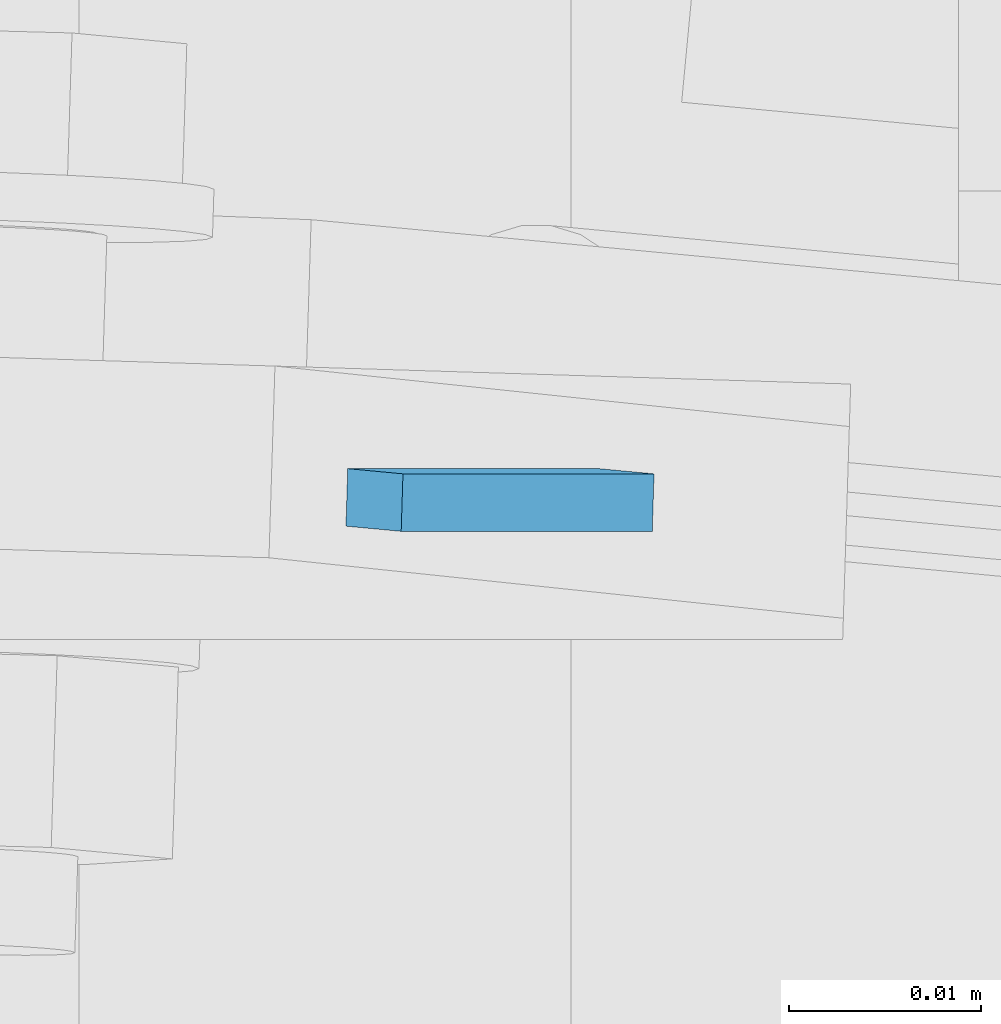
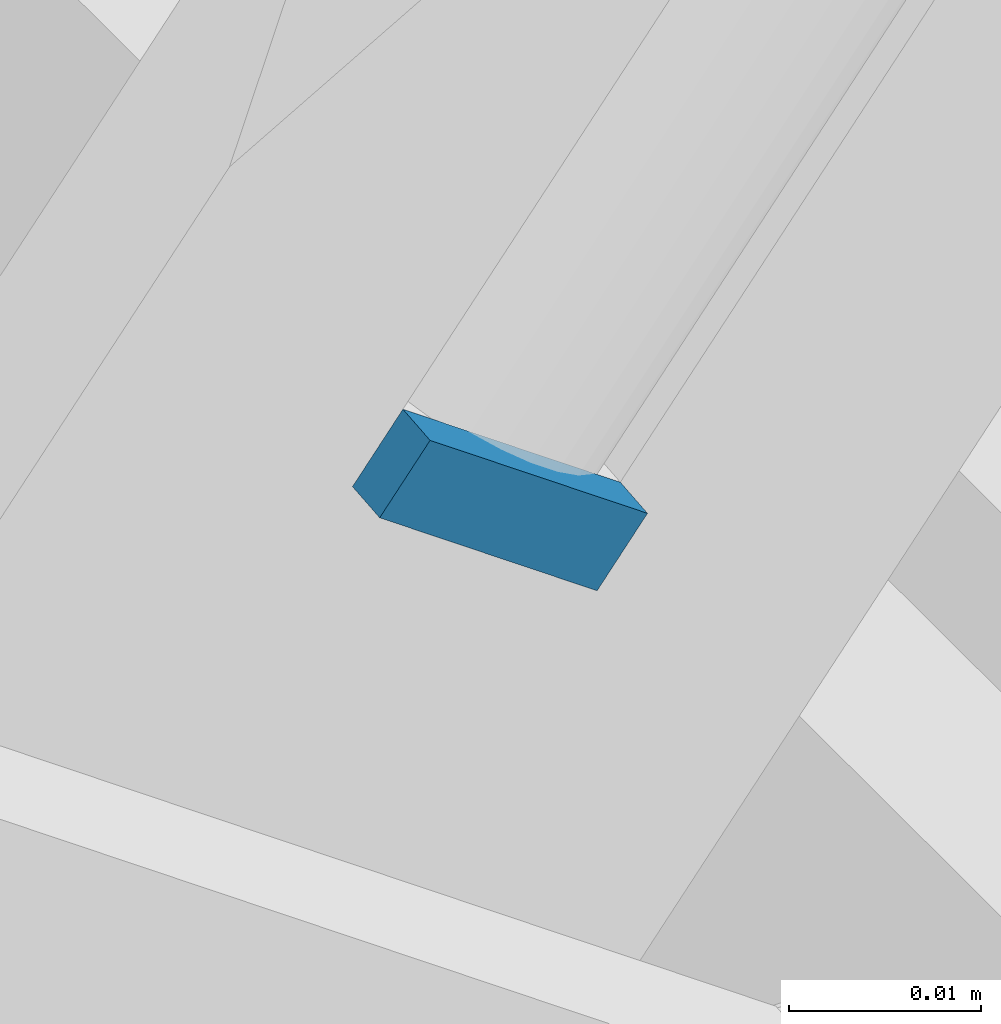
# One storey, part 206 of 271: 1 plate, 1 element without a shape of its own.
"""IFC2X3 building model written with IfcOpenShell, lengths in millimetres."""

from ifc_helpers import new_model, si_unit, frame, origin_with_axes, place, context, subcontext, project, spatial, polyline, outline, extrude, material, type_object, element, aggregate, save


model = new_model("IFC2X3")

# Units and contexts
model_context = context("Model", 3, precision=1e-05, world=origin_with_axes())
body_context = subcontext(model_context, "Body", "Model", "MODEL_VIEW")
ifc_project = project(units=[si_unit("LENGTHUNIT", "METRE", prefix="MILLI"), si_unit("AREAUNIT", "SQUARE_METRE"), si_unit("VOLUMEUNIT", "CUBIC_METRE"), si_unit("MASSUNIT", "GRAM", prefix="KILO"), si_unit("TIMEUNIT", "SECOND"), si_unit("PLANEANGLEUNIT", "RADIAN"), si_unit("SOLIDANGLEUNIT", "STERADIAN"), si_unit("THERMODYNAMICTEMPERATUREUNIT", "DEGREE_CELSIUS"), si_unit("LUMINOUSINTENSITYUNIT", "LUMEN")], contexts=[model_context])

# Site, building, storey
site_placement = place(None, origin_with_axes())
site = spatial("IfcSite", under=ifc_project, at=site_placement, Name="Undefined", CompositionType="ELEMENT")
building_placement = place(site_placement, origin_with_axes())
building = spatial("IfcBuilding", under=site, at=building_placement, Name="Undefined", CompositionType="ELEMENT")
storey_placement = place(building_placement, origin_with_axes())
storey = spatial("IfcBuildingStorey", under=building, at=storey_placement, Name="Undefined", CompositionType="ELEMENT", Elevation=0.0)

# Assembly, plate
assembly_placement = place(storey_placement, origin_with_axes())
assembly = element("IfcElementAssembly", 1, at=assembly_placement, inside=storey, AssemblyPlace="NOTDEFINED", PredefinedType="RIGID_FRAME")
ifc_material = material(Name="STEEL/S355JR")
plate_type = type_object("IfcPlateType", Name="BL5*3", PredefinedType="NOTDEFINED")
plate_placement = place(assembly_placement, frame((200.71297721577, 4276.24543843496, 1488.47400092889), z_axis=(0.575326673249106, -0.0541946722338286, 0.816126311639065), x_axis=(0.817327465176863, 0.0, -0.576173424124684)))
plate = element("IfcPlate", 2, at=plate_placement, type_object=plate_type, material=ifc_material, Name="BLACHA", ObjectType="BL5*3", context=body_context, shape_type="SweptSolid", body=[
    extrude(outline(polyline([(0.0, 0.0), (15.9999980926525, -7.67386154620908e-13), (15.9999990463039, 2.99999928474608), (-1.81898940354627e-12, 2.99999928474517), (0.0, 0.0)])), frame((0.0, 0.0, -2.5), z_axis=(0.0, 0.0, 1.0), x_axis=(1.0, 0.0, 0.0)), (0.0, 0.0, 1.0), 5.0),
])
aggregate(assembly, [plate])

save(model, "model.ifc")
